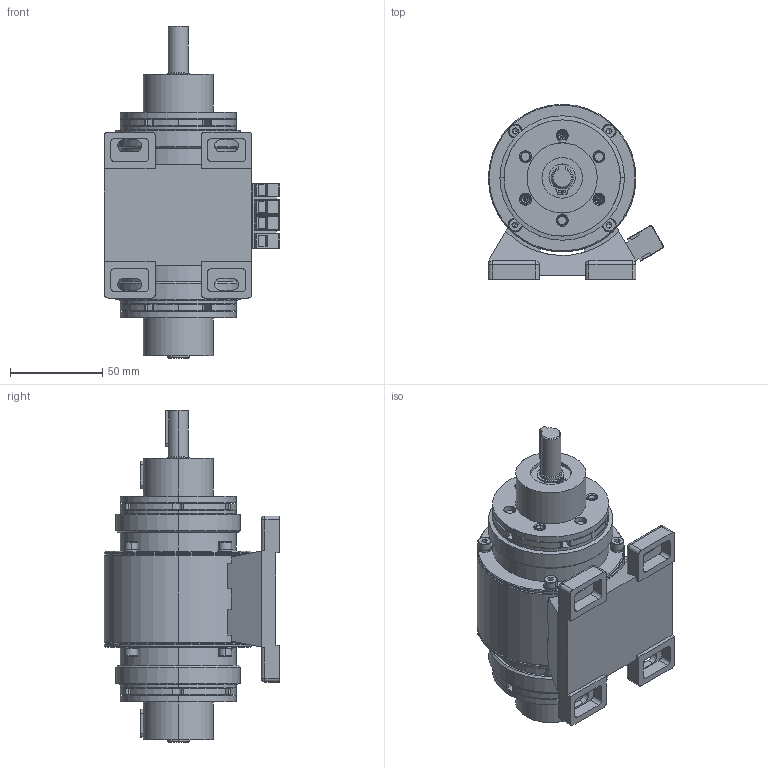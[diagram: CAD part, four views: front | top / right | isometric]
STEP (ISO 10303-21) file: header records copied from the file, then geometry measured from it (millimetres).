
FILE_DESCRIPTION (( 'STEP AP203' ), '1' );
FILE_NAME ('S-S50-A23.STEP', '2020-04-16T09:21:38', ( '' ), ( '' ), 'SwSTEP 2.0', 'SolidWorks 2015', '' );
FILE_SCHEMA (( 'CONFIG_CONTROL_DESIGN' ));
Length unit declared in the file: millimetre
Products named in the file (1): S-S50-A23
Bounding box: 94.97 x 95 x 180 mm (x, y, z)
Volume: 579267 mm3; surface area: 84710.8 mm2
Topology: 1 solids, 13 shells, 1193 faces, 2896 edges, 1786 vertices
Faces by surface type: plane 485, cylinder 433, cone 139, torus 128, sphere 8
Entity records: 35059 total; most frequent: DIRECTION 6580, CARTESIAN_POINT 6142, ORIENTED_EDGE 5696, EDGE_CURVE 2848, AXIS2_PLACEMENT_3D 2574, VERTEX_POINT 1786, VECTOR 1432, LINE 1432
